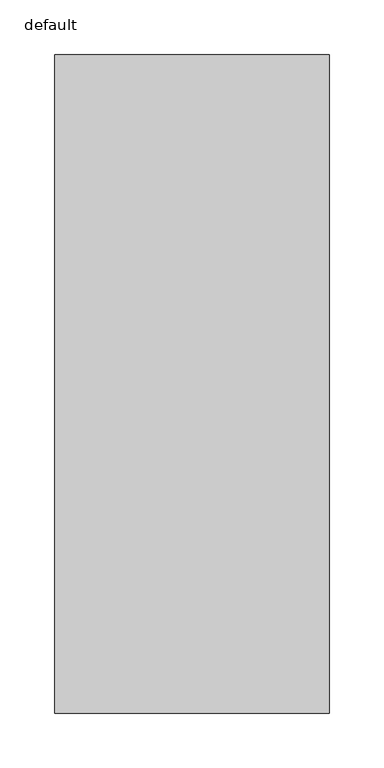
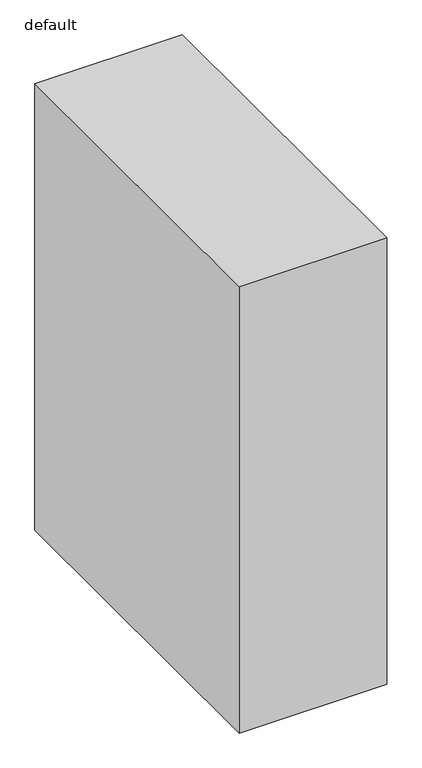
"""IFC4 building model written with IfcOpenShell, lengths in millimetres: furniture geometry, Fu_кухонный напольный модуль_LEG : default."""

from ifc_helpers import new_model, si_unit, origin, origin_with_axes, place, context, project, spatial, polyline, outline, extrude, source, transform, mapped, element, save


def default_1239a132(model_context):
    return source(origin(), model_context, "Body", "SweptSolid", [
        extrude(outline(polyline([(250.0, 0.0), (0.0, 0.0), (0.0, 600.0), (250.0, 600.0), (250.0, 0.0)])), origin_with_axes(), (0.0, 0.0, 1.0), 800.0),
    ])


if __name__ == "__main__":
    model = new_model("IFC4")
    model_context = context("Model", 3, world=origin())
    ifc_project = project(units=[si_unit("LENGTHUNIT", "METRE", prefix="MILLI")], contexts=[model_context])
    site = spatial("IfcSite", under=ifc_project)
    building = spatial("IfcBuilding", under=site)
    placement = place(None, origin())
    default_shape = default_1239a132(model_context)
    element("IfcFurniture", 1, ObjectType="Fu_кухонный напольный модуль_LEG : default", at=placement, inside=building, context=model_context, shape_type="MappedRepresentation", body=[
        mapped(default_shape, transform((0.0, 0.0, 0.0), x_axis=(1.0, 0.0, 0.0), y_axis=(0.0, 1.0, 0.0), z_axis=(0.0, 0.0, 1.0))),
    ])
    save(model, "model.ifc")
